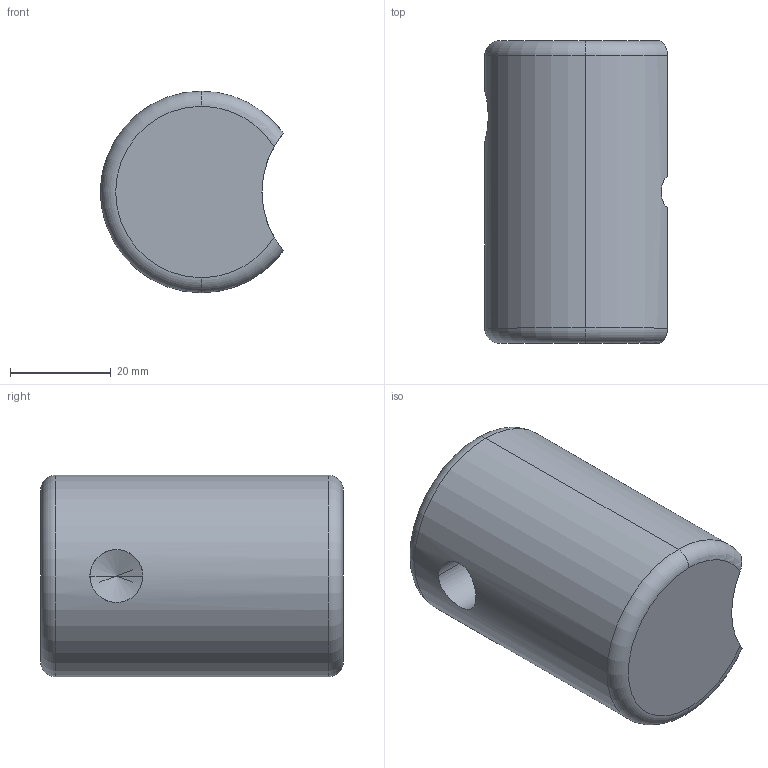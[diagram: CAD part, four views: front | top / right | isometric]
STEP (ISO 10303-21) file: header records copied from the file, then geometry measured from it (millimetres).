
FILE_DESCRIPTION(('CATIA V5 STEP Exchange'),'2;1');
FILE_NAME('C:\Users\Utente\Desktop\3D files A518\A518-2.stp','2020-04-12T13:02:32+00:00',('none'),('none'),'CATIA Version 5 Release 20 GA (IN-10)','CATIA V5 STEP AP203','none');
FILE_SCHEMA(('CONFIG_CONTROL_DESIGN'));
Length unit declared in the file: millimetre
Products named in the file (1): A518-2
Bounding box: 36.27 x 60 x 40 mm (x, y, z)
Volume: 65986.6 mm3; surface area: 10016.3 mm2
Topology: 1 solids, 1 shells, 19 faces, 49 edges, 31 vertices
Faces by surface type: torus 8, cylinder 7, cone 2, plane 2
Entity records: 720 total; most frequent: CARTESIAN_POINT 263, ORIENTED_EDGE 94, DIRECTION 65, EDGE_CURVE 47, AXIS2_PLACEMENT_3D 40, VERTEX_POINT 31, CIRCLE 23, EDGE_LOOP 20
